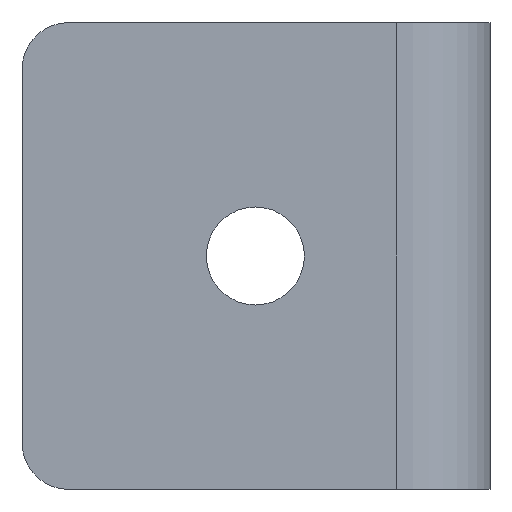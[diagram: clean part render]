
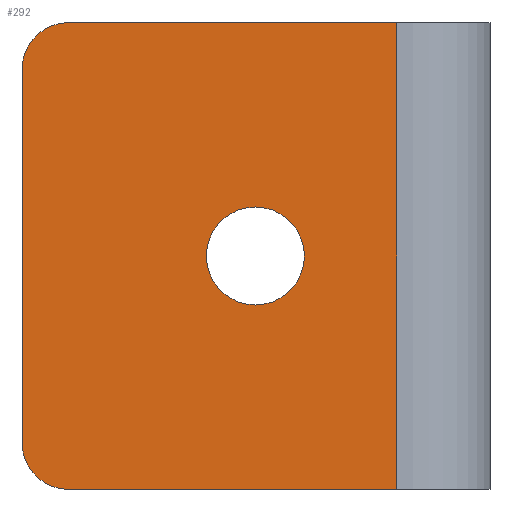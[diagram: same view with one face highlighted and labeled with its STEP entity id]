
A CAD part, left-side view. The second image highlights one B-rep face of the part: STEP entity #292.
In plain terms, the highlighted planar face has unit normal (-1, 0, 0).
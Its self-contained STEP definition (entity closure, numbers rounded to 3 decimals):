
#12 = ORIENTED_EDGE ( 'NONE', *, *, #651, .T. ) ;
#29 = CARTESIAN_POINT ( 'NONE',  ( -3.879, 26.079, 15. ) ) ;
#45 = DIRECTION ( 'NONE',  ( 1., 0., 0. ) ) ;
#72 = ORIENTED_EDGE ( 'NONE', *, *, #210, .T. ) ;
#77 = VERTEX_POINT ( 'NONE', #462 ) ;
#82 = EDGE_CURVE ( 'NONE', #265, #268, #252, .T. ) ;
#90 = EDGE_CURVE ( 'NONE', #77, #148, #498, .T. ) ;
#95 = CIRCLE ( 'NONE', #390, 3.15 ) ;
#104 = ORIENTED_EDGE ( 'NONE', *, *, #608, .T. ) ;
#122 = LINE ( 'NONE', #611, #321 ) ;
#125 = CARTESIAN_POINT ( 'NONE',  ( -3.879, 26.079, 15. ) ) ;
#140 = DIRECTION ( 'NONE',  ( 0., 0., 1. ) ) ;
#148 = VERTEX_POINT ( 'NONE', #600 ) ;
#195 = ORIENTED_EDGE ( 'NONE', *, *, #90, .T. ) ;
#196 = DIRECTION ( 'NONE',  ( 0., 0., -1. ) ) ;
#202 = DIRECTION ( 'NONE',  ( 0., 0., 1. ) ) ;
#207 = DIRECTION ( 'NONE',  ( 0., 0., 1. ) ) ;
#210 = EDGE_CURVE ( 'NONE', #305, #268, #237, .T. ) ;
#217 = EDGE_LOOP ( 'NONE', ( #528, #12 ) ) ;
#223 = CIRCLE ( 'NONE', #331, 3. ) ;
#236 = CARTESIAN_POINT ( 'NONE',  ( -3.879, 2., -15. ) ) ;
#237 = LINE ( 'NONE', #445, #487 ) ;
#252 = LINE ( 'NONE', #459, #402 ) ;
#254 = VECTOR ( 'NONE', #499, 1000. ) ;
#257 = EDGE_CURVE ( 'NONE', #77, #265, #122, .T. ) ;
#258 = CARTESIAN_POINT ( 'NONE',  ( -3.879, 23.079, -15. ) ) ;
#265 = VERTEX_POINT ( 'NONE', #283 ) ;
#266 = CARTESIAN_POINT ( 'NONE',  ( -3.879, 11.079, 3.15 ) ) ;
#268 = VERTEX_POINT ( 'NONE', #236 ) ;
#283 = CARTESIAN_POINT ( 'NONE',  ( -3.879, 2., 15. ) ) ;
#292 = ADVANCED_FACE ( 'NONE', ( #472, #649 ), #537, .F. ) ;
#296 = DIRECTION ( 'NONE',  ( 0., -1., 0. ) ) ;
#305 = VERTEX_POINT ( 'NONE', #258 ) ;
#321 = VECTOR ( 'NONE', #296, 1000. ) ;
#331 = AXIS2_PLACEMENT_3D ( 'NONE', #343, #522, #411 ) ;
#343 = CARTESIAN_POINT ( 'NONE',  ( -3.879, 23.079, -12. ) ) ;
#345 = AXIS2_PLACEMENT_3D ( 'NONE', #29, #45, #207 ) ;
#356 = CARTESIAN_POINT ( 'NONE',  ( -3.879, 23.079, 12. ) ) ;
#371 = VERTEX_POINT ( 'NONE', #677 ) ;
#374 = CARTESIAN_POINT ( 'NONE',  ( -3.879, 11.079, -3.15 ) ) ;
#387 = VERTEX_POINT ( 'NONE', #374 ) ;
#388 = AXIS2_PLACEMENT_3D ( 'NONE', #356, #675, #202 ) ;
#390 = AXIS2_PLACEMENT_3D ( 'NONE', #489, #588, #428 ) ;
#402 = VECTOR ( 'NONE', #196, 1000. ) ;
#411 = DIRECTION ( 'NONE',  ( 0., 0., 1. ) ) ;
#428 = DIRECTION ( 'NONE',  ( 0., 0., 1. ) ) ;
#445 = CARTESIAN_POINT ( 'NONE',  ( -3.879, 26.079, -15. ) ) ;
#453 = CIRCLE ( 'NONE', #540, 3.15 ) ;
#455 = ORIENTED_EDGE ( 'NONE', *, *, #257, .F. ) ;
#459 = CARTESIAN_POINT ( 'NONE',  ( -3.879, 2., 15. ) ) ;
#461 = EDGE_CURVE ( 'NONE', #387, #595, #95, .T. ) ;
#462 = CARTESIAN_POINT ( 'NONE',  ( -3.879, 23.079, 15. ) ) ;
#469 = LINE ( 'NONE', #125, #254 ) ;
#472 = FACE_OUTER_BOUND ( 'NONE', #523, .T. ) ;
#487 = VECTOR ( 'NONE', #659, 1000. ) ;
#489 = CARTESIAN_POINT ( 'NONE',  ( -3.879, 11.079, 0. ) ) ;
#498 = CIRCLE ( 'NONE', #388, 3. ) ;
#499 = DIRECTION ( 'NONE',  ( 0., 0., -1. ) ) ;
#522 = DIRECTION ( 'NONE',  ( -1., 0., 0. ) ) ;
#523 = EDGE_LOOP ( 'NONE', ( #568, #455, #195, #104, #658, #72 ) ) ;
#528 = ORIENTED_EDGE ( 'NONE', *, *, #461, .T. ) ;
#537 = PLANE ( 'NONE',  #345 ) ;
#540 = AXIS2_PLACEMENT_3D ( 'NONE', #607, #551, #140 ) ;
#551 = DIRECTION ( 'NONE',  ( 1., 0., 0. ) ) ;
#568 = ORIENTED_EDGE ( 'NONE', *, *, #82, .F. ) ;
#588 = DIRECTION ( 'NONE',  ( 1., 0., 0. ) ) ;
#595 = VERTEX_POINT ( 'NONE', #266 ) ;
#600 = CARTESIAN_POINT ( 'NONE',  ( -3.879, 26.079, 12. ) ) ;
#607 = CARTESIAN_POINT ( 'NONE',  ( -3.879, 11.079, 0. ) ) ;
#608 = EDGE_CURVE ( 'NONE', #148, #371, #469, .T. ) ;
#611 = CARTESIAN_POINT ( 'NONE',  ( -3.879, 26.079, 15. ) ) ;
#631 = EDGE_CURVE ( 'NONE', #371, #305, #223, .T. ) ;
#649 = FACE_BOUND ( 'NONE', #217, .T. ) ;
#651 = EDGE_CURVE ( 'NONE', #595, #387, #453, .T. ) ;
#658 = ORIENTED_EDGE ( 'NONE', *, *, #631, .T. ) ;
#659 = DIRECTION ( 'NONE',  ( 0., -1., 0. ) ) ;
#675 = DIRECTION ( 'NONE',  ( -1., 0., 0. ) ) ;
#677 = CARTESIAN_POINT ( 'NONE',  ( -3.879, 26.079, -12. ) ) ;
